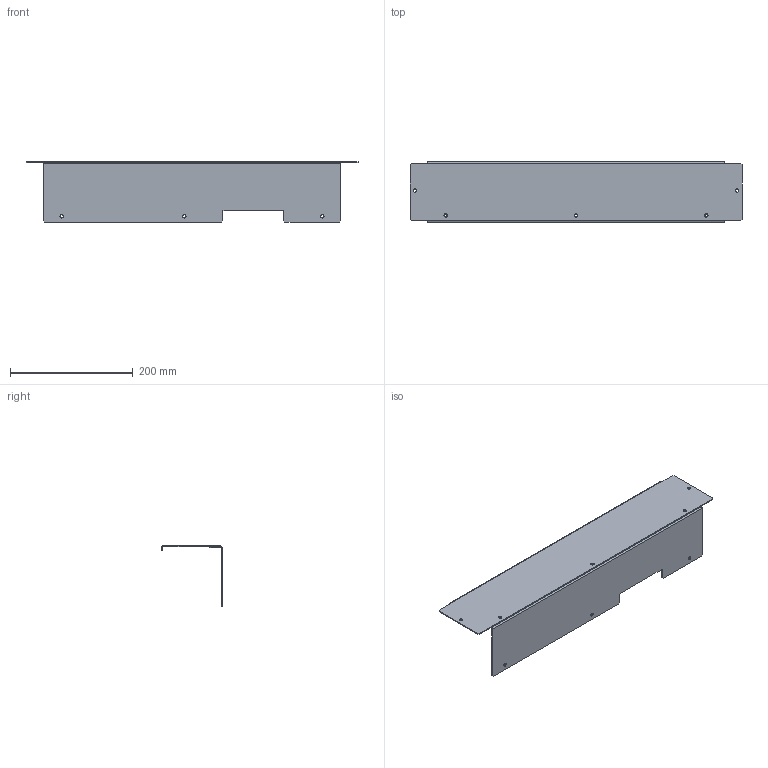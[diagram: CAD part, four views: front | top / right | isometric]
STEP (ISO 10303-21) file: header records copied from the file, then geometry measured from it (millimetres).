
FILE_DESCRIPTION(('CAx-IF Rec.Pracs.---Model Styling and Organization---1.2---2011-12-15','CAx-IF Rec.Pracs.---Geometric and Assembly Validation Properties---4.1---2014-06-16','CAx-IF Rec.Pracs.---PMI Polyline Presentation---2.0---2013-05-24'),'2;1');
FILE_NAME('R5M2CCS620.stp','2021-05-05T11:52:27+03:00',(''),(''),'STEP Interface 4.4 by CT CoreTechnologie','3D_Evolution4.4 by CT CoreTechnologie','');
FILE_SCHEMA(('AUTOMOTIVE_DESIGN { 1 0 10303 214 1 1 1 1 }'));
Length unit declared in the file: millimetre
Products named in the file (3): R5M2CCS620; RB.0858.00.00.0_-00; RB.0855.00.00.1_-00
Assembly tree (2 placements, depth 2):
  R5M2CCS620
    RB.0858.00.00.0_-00
    RB.0855.00.00.1_-00
Bounding box: 541 x 98.5 x 98.5 mm (x, y, z)
Surface area: 220259.1 mm2 (no closed solid volume)
Topology: 0 solids, 2 shells, 66 faces, 178 edges, 116 vertices
Faces by surface type: plane 40, cylinder 26
Entity records: 2232 total; most frequent: DIRECTION 368, CARTESIAN_POINT 363, ORIENTED_EDGE 356, EDGE_CURVE 178, VECTOR 126, LINE 126, AXIS2_PLACEMENT_3D 121, VERTEX_POINT 116
